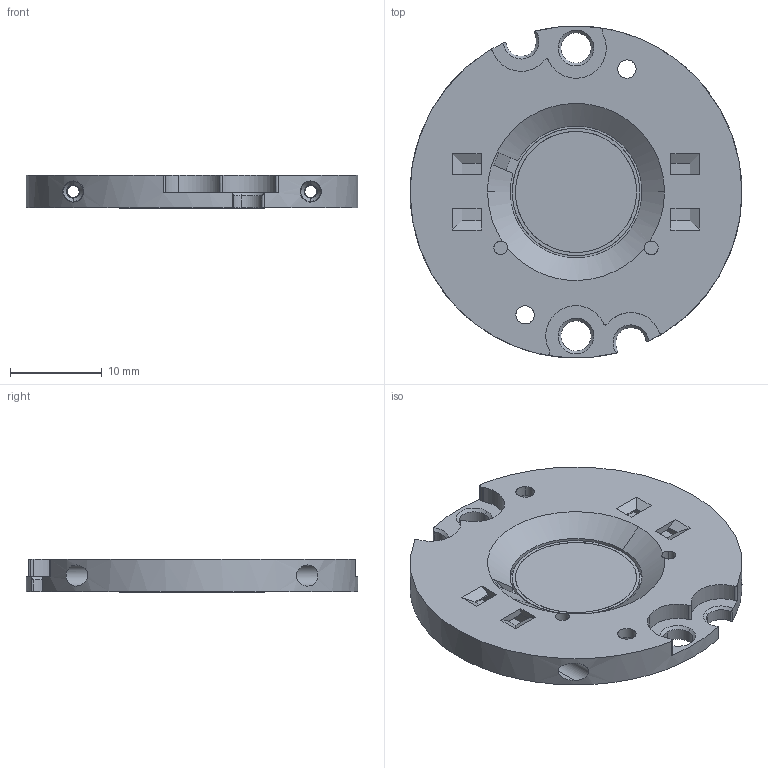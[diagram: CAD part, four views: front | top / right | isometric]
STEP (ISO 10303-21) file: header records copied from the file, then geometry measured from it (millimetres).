
FILE_DESCRIPTION (( 'STEP AP214' ), '1' );
FILE_NAME ('Bridgelux-VeroSE13-M-STP-17-000018-RA.STEP', '2016-11-04T13:18:23', ( '' ), ( '' ), 'SwSTEP 2.0', 'SolidWorks 2016', '' );
FILE_SCHEMA (( 'AUTOMOTIVE_DESIGN' ));
Length unit declared in the file: millimetre
Products named in the file (1): Bridgelux-VeroSE13-M-STP-17-000018-RA
Bounding box: 36.2 x 36.2 x 3.6 mm (x, y, z)
Volume: 2318.8 mm3; surface area: 3602 mm2
Topology: 1 solids, 1 shells, 260 faces, 698 edges, 450 vertices
Faces by surface type: plane 134, cylinder 86, bspline 40
Entity records: 11026 total; most frequent: CARTESIAN_POINT 5890, ORIENTED_EDGE 1396, EDGE_CURVE 698, B_SPLINE_CURVE_WITH_KNOTS 698, VERTEX_POINT 450, DIRECTION 442, EDGE_LOOP 298, FACE_OUTER_BOUND 260
